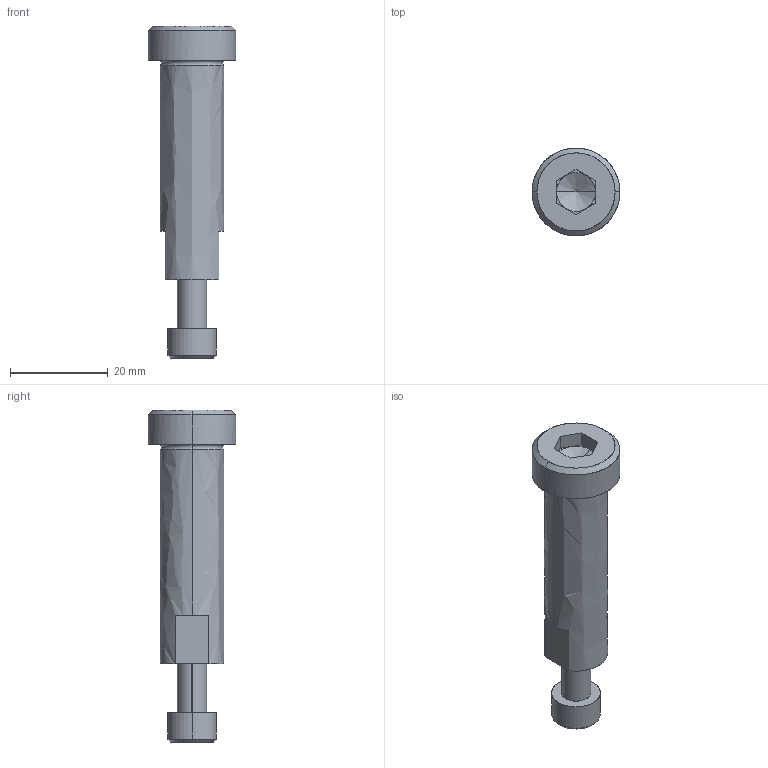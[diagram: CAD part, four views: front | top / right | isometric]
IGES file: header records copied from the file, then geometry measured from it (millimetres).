
Global section: file name: E:\UnigraphicsGraphicData\MISUMI_PRESS-PARTS\IGES\3d_sbt13-45_05082_r00.igs; native system: NX V5.0; preprocessor: UGS NX IGES V5.0; author: MISUMI; date: 20110105.162435; units: millimetre
Bounding box: 18 x 18 x 68 mm (x, y, z)
Surface area: 3970.8 mm2 (no closed solid volume)
Topology: 0 solids, 0 shells, 56 faces, 310 edges, 306 vertices
Faces by surface type: bspline 56
